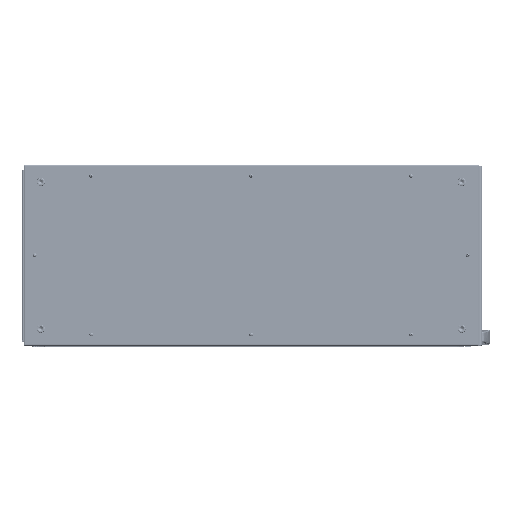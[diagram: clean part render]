
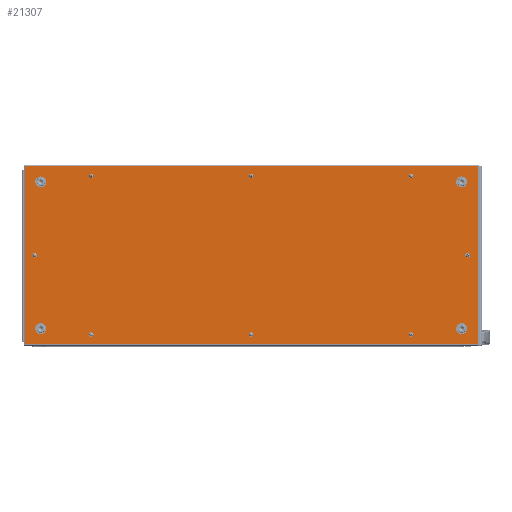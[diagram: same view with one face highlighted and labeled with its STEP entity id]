
A CAD part, top view. The second image highlights one B-rep face of the part: STEP entity #21307.
In plain terms, the highlighted planar face has unit normal (0, 0, 1).
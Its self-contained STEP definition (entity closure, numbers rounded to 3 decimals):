
#21307=ADVANCED_FACE('',(#129034,#129036,#129038,#129040,#129042,#129044,#129046,
#129048,#129050,#129052,#129054,#129056,#129058),#129060,.T.);
#129034=FACE_BOUND('',#129035,.T.);
#129035=EDGE_LOOP('',(#210814,#210815,#210816,#210817));
#129036=FACE_BOUND('',#129037,.T.);
#129037=EDGE_LOOP('',(#210818));
#129038=FACE_BOUND('',#129039,.T.);
#129039=EDGE_LOOP('',(#210819));
#129040=FACE_BOUND('',#129041,.T.);
#129041=EDGE_LOOP('',(#210820));
#129042=FACE_BOUND('',#129043,.T.);
#129043=EDGE_LOOP('',(#210821));
#129044=FACE_BOUND('',#129045,.T.);
#129045=EDGE_LOOP('',(#210822));
#129046=FACE_BOUND('',#129047,.T.);
#129047=EDGE_LOOP('',(#210823));
#129048=FACE_BOUND('',#129049,.T.);
#129049=EDGE_LOOP('',(#210824));
#129050=FACE_BOUND('',#129051,.T.);
#129051=EDGE_LOOP('',(#210825));
#129052=FACE_BOUND('',#129053,.T.);
#129053=EDGE_LOOP('',(#210826));
#129054=FACE_BOUND('',#129055,.T.);
#129055=EDGE_LOOP('',(#210827));
#129056=FACE_BOUND('',#129057,.T.);
#129057=EDGE_LOOP('',(#210828));
#129058=FACE_BOUND('',#129059,.T.);
#129059=EDGE_LOOP('',(#210829));
#129060=PLANE('',#129061);
#129061=AXIS2_PLACEMENT_3D('',#129062,#129063,#129064);
#129062=CARTESIAN_POINT('',(0.,0.,1.5));
#129063=DIRECTION('',(0.,0.,1.));
#129064=DIRECTION('',(0.,1.,0.));
#210814=ORIENTED_EDGE('',*,*,#248646,.T.);
#210815=ORIENTED_EDGE('',*,*,#248647,.T.);
#210816=ORIENTED_EDGE('',*,*,#248648,.T.);
#210817=ORIENTED_EDGE('',*,*,#248649,.T.);
#210818=ORIENTED_EDGE('',*,*,#248625,.T.);
#210819=ORIENTED_EDGE('',*,*,#248624,.T.);
#210820=ORIENTED_EDGE('',*,*,#248623,.T.);
#210821=ORIENTED_EDGE('',*,*,#248622,.T.);
#210822=ORIENTED_EDGE('',*,*,#248621,.T.);
#210823=ORIENTED_EDGE('',*,*,#248620,.T.);
#210824=ORIENTED_EDGE('',*,*,#248616,.T.);
#210825=ORIENTED_EDGE('',*,*,#248617,.T.);
#210826=ORIENTED_EDGE('',*,*,#248618,.T.);
#210827=ORIENTED_EDGE('',*,*,#248619,.T.);
#210828=ORIENTED_EDGE('',*,*,#248614,.T.);
#210829=ORIENTED_EDGE('',*,*,#248613,.T.);
#248613=EDGE_CURVE('',#304186,#304186,#304187,.F.);
#248614=EDGE_CURVE('',#304188,#304188,#304189,.F.);
#248616=EDGE_CURVE('',#304192,#304192,#304193,.F.);
#248617=EDGE_CURVE('',#304194,#304194,#304195,.F.);
#248618=EDGE_CURVE('',#304196,#304196,#304197,.F.);
#248619=EDGE_CURVE('',#304198,#304198,#304199,.F.);
#248620=EDGE_CURVE('',#304200,#304200,#304201,.F.);
#248621=EDGE_CURVE('',#304202,#304202,#304203,.F.);
#248622=EDGE_CURVE('',#304204,#304204,#304205,.F.);
#248623=EDGE_CURVE('',#304206,#304206,#304207,.F.);
#248624=EDGE_CURVE('',#304208,#304208,#304209,.F.);
#248625=EDGE_CURVE('',#304210,#304210,#304211,.F.);
#248646=EDGE_CURVE('',#304248,#304249,#304250,.T.);
#248647=EDGE_CURVE('',#304249,#304251,#304252,.T.);
#248648=EDGE_CURVE('',#304251,#304253,#304254,.T.);
#248649=EDGE_CURVE('',#304253,#304248,#304255,.T.);
#304186=VERTEX_POINT('',#430837);
#304187=CIRCLE('',#430838,3.75);
#304188=VERTEX_POINT('',#430842);
#304189=CIRCLE('',#430843,3.75);
#304192=VERTEX_POINT('',#430852);
#304193=CIRCLE('',#430853,7.);
#304194=VERTEX_POINT('',#430857);
#304195=CIRCLE('',#430858,7.);
#304196=VERTEX_POINT('',#430862);
#304197=CIRCLE('',#430863,7.);
#304198=VERTEX_POINT('',#430867);
#304199=CIRCLE('',#430868,7.);
#304200=VERTEX_POINT('',#430872);
#304201=CIRCLE('',#430873,3.75);
#304202=VERTEX_POINT('',#430877);
#304203=CIRCLE('',#430878,3.75);
#304204=VERTEX_POINT('',#430882);
#304205=CIRCLE('',#430883,3.75);
#304206=VERTEX_POINT('',#430887);
#304207=CIRCLE('',#430888,3.75);
#304208=VERTEX_POINT('',#430892);
#304209=CIRCLE('',#430893,3.75);
#304210=VERTEX_POINT('',#430897);
#304211=CIRCLE('',#430898,3.75);
#304248=VERTEX_POINT('',#431114);
#304249=VERTEX_POINT('',#431115);
#304250=LINE('',#431116,#431117);
#304251=VERTEX_POINT('',#431119);
#304252=LINE('',#431120,#431121);
#304253=VERTEX_POINT('',#431123);
#304254=LINE('',#431124,#431125);
#304255=LINE('',#431127,#431128);
#430837=CARTESIAN_POINT('',(0.,-169.75,1.5));
#430838=AXIS2_PLACEMENT_3D('',#430839,#430840,#430841);
#430839=CARTESIAN_POINT('',(0.,-173.5,1.5));
#430840=DIRECTION('',(0.,0.,1.));
#430841=DIRECTION('',(0.,1.,0.));
#430842=CARTESIAN_POINT('',(0.,177.25,1.5));
#430843=AXIS2_PLACEMENT_3D('',#430844,#430845,#430846);
#430844=CARTESIAN_POINT('',(0.,173.5,1.5));
#430845=DIRECTION('',(0.,0.,1.));
#430846=DIRECTION('',(0.,1.,0.));
#430852=CARTESIAN_POINT('',(460.5,167.5,1.5));
#430853=AXIS2_PLACEMENT_3D('',#430854,#430855,#430856);
#430854=CARTESIAN_POINT('',(460.5,160.5,1.5));
#430855=DIRECTION('',(0.,0.,1.));
#430856=DIRECTION('',(0.,1.,0.));
#430857=CARTESIAN_POINT('',(-460.5,-153.5,1.5));
#430858=AXIS2_PLACEMENT_3D('',#430859,#430860,#430861);
#430859=CARTESIAN_POINT('',(-460.5,-160.5,1.5));
#430860=DIRECTION('',(0.,0.,1.));
#430861=DIRECTION('',(0.,1.,0.));
#430862=CARTESIAN_POINT('',(-460.5,167.5,1.5));
#430863=AXIS2_PLACEMENT_3D('',#430864,#430865,#430866);
#430864=CARTESIAN_POINT('',(-460.5,160.5,1.5));
#430865=DIRECTION('',(0.,0.,1.));
#430866=DIRECTION('',(0.,1.,0.));
#430867=CARTESIAN_POINT('',(460.5,-153.5,1.5));
#430868=AXIS2_PLACEMENT_3D('',#430869,#430870,#430871);
#430869=CARTESIAN_POINT('',(460.5,-160.5,1.5));
#430870=DIRECTION('',(0.,0.,1.));
#430871=DIRECTION('',(0.,1.,0.));
#430872=CARTESIAN_POINT('',(-473.5,3.75,1.5));
#430873=AXIS2_PLACEMENT_3D('',#430874,#430875,#430876);
#430874=CARTESIAN_POINT('',(-473.5,0.,1.5));
#430875=DIRECTION('',(0.,0.,1.));
#430876=DIRECTION('',(0.,1.,0.));
#430877=CARTESIAN_POINT('',(473.5,3.75,1.5));
#430878=AXIS2_PLACEMENT_3D('',#430879,#430880,#430881);
#430879=CARTESIAN_POINT('',(473.5,0.,1.5));
#430880=DIRECTION('',(0.,0.,1.));
#430881=DIRECTION('',(0.,1.,0.));
#430882=CARTESIAN_POINT('',(-350.,-169.75,1.5));
#430883=AXIS2_PLACEMENT_3D('',#430884,#430885,#430886);
#430884=CARTESIAN_POINT('',(-350.,-173.5,1.5));
#430885=DIRECTION('',(0.,0.,1.));
#430886=DIRECTION('',(0.,1.,0.));
#430887=CARTESIAN_POINT('',(350.,177.25,1.5));
#430888=AXIS2_PLACEMENT_3D('',#430889,#430890,#430891);
#430889=CARTESIAN_POINT('',(350.,173.5,1.5));
#430890=DIRECTION('',(0.,0.,1.));
#430891=DIRECTION('',(0.,1.,0.));
#430892=CARTESIAN_POINT('',(-350.,177.25,1.5));
#430893=AXIS2_PLACEMENT_3D('',#430894,#430895,#430896);
#430894=CARTESIAN_POINT('',(-350.,173.5,1.5));
#430895=DIRECTION('',(0.,0.,1.));
#430896=DIRECTION('',(0.,1.,0.));
#430897=CARTESIAN_POINT('',(350.,-169.75,1.5));
#430898=AXIS2_PLACEMENT_3D('',#430899,#430900,#430901);
#430899=CARTESIAN_POINT('',(350.,-173.5,1.5));
#430900=DIRECTION('',(0.,0.,1.));
#430901=DIRECTION('',(0.,1.,0.));
#431114=CARTESIAN_POINT('',(495.2,195.2,1.5));
#431115=CARTESIAN_POINT('',(-495.2,195.2,1.5));
#431116=CARTESIAN_POINT('',(495.2,195.2,1.5));
#431117=VECTOR('',#431118,1.);
#431118=DIRECTION('',(-1.,0.,0.));
#431119=CARTESIAN_POINT('',(-495.2,-195.2,1.5));
#431120=CARTESIAN_POINT('',(-495.2,195.2,1.5));
#431121=VECTOR('',#431122,1.);
#431122=DIRECTION('',(0.,-1.,0.));
#431123=CARTESIAN_POINT('',(495.2,-195.2,1.5));
#431124=CARTESIAN_POINT('',(-495.2,-195.2,1.5));
#431125=VECTOR('',#431126,1.);
#431126=DIRECTION('',(1.,0.,0.));
#431127=CARTESIAN_POINT('',(495.2,-195.2,1.5));
#431128=VECTOR('',#431129,1.);
#431129=DIRECTION('',(0.,1.,0.));
